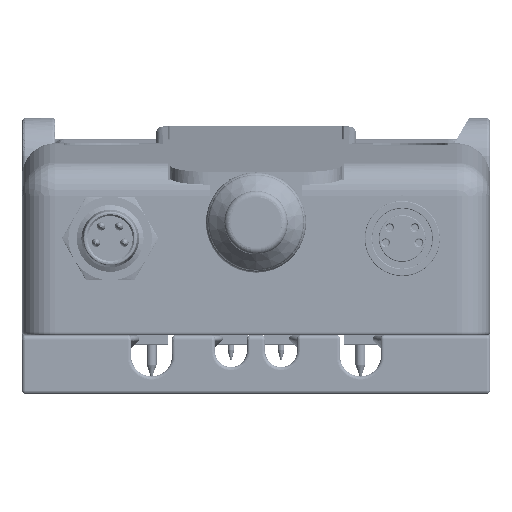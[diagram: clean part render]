
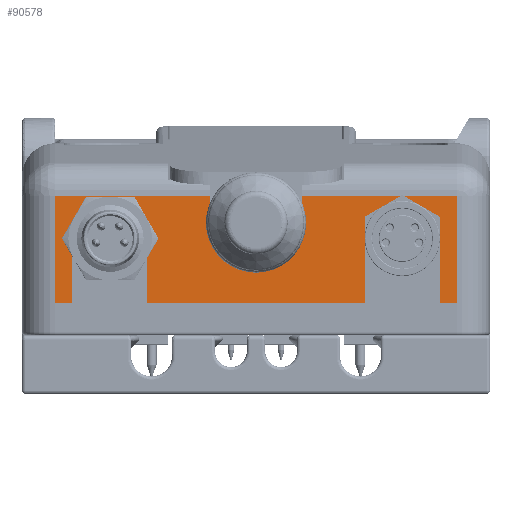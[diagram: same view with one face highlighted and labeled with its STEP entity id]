
A CAD part, left-side view. The second image highlights one B-rep face of the part: STEP entity #90578.
In plain terms, the highlighted planar face has unit normal (-1, 0, 0).
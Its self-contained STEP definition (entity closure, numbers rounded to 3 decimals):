
#6927=PLANE('',#97430);
#10107=CIRCLE('',#97431,4.);
#10108=CIRCLE('',#97432,4.);
#10109=CIRCLE('',#97433,5.);
#14538=FACE_OUTER_BOUND('',#19946,.T.);
#19946=EDGE_LOOP('',(#78611,#78612,#78613,#78614,#78615,#78616,#78617,#78618,
#78619,#78620,#78621,#78622,#78623,#78624,#78625,#78626,#78627,#78628,#78629,
#78630,#78631,#78632));
#28754=LINE('',#168784,#37090);
#28793=LINE('',#168878,#37129);
#28799=LINE('',#168891,#37135);
#28800=LINE('',#168893,#37136);
#28801=LINE('',#168895,#37137);
#28802=LINE('',#168897,#37138);
#28803=LINE('',#168899,#37139);
#28804=LINE('',#168902,#37140);
#28805=LINE('',#168904,#37141);
#28806=LINE('',#168906,#37142);
#28807=LINE('',#168908,#37143);
#28808=LINE('',#168912,#37144);
#28809=LINE('',#168914,#37145);
#28810=LINE('',#168916,#37146);
#28811=LINE('',#168918,#37147);
#28812=LINE('',#168920,#37148);
#28813=LINE('',#168921,#37149);
#28814=LINE('',#168925,#37150);
#28815=LINE('',#168926,#37151);
#37090=VECTOR('',#116601,0.5);
#37129=VECTOR('',#116664,0.5);
#37135=VECTOR('',#116672,18.5);
#37136=VECTOR('',#116673,12.834);
#37137=VECTOR('',#116674,2.);
#37138=VECTOR('',#116675,7.52);
#37139=VECTOR('',#116676,0.5);
#37140=VECTOR('',#116679,7.52);
#37141=VECTOR('',#116680,26.);
#37142=VECTOR('',#116681,7.52);
#37143=VECTOR('',#116682,0.5);
#37144=VECTOR('',#116685,0.5);
#37145=VECTOR('',#116686,7.52);
#37146=VECTOR('',#116687,2.);
#37147=VECTOR('',#116688,12.834);
#37148=VECTOR('',#116689,18.5);
#37149=VECTOR('',#116690,3.234);
#37150=VECTOR('',#116693,0.5);
#37151=VECTOR('',#116694,3.234);
#45133=VERTEX_POINT('',#168780);
#45135=VERTEX_POINT('',#168783);
#45177=VERTEX_POINT('',#168876);
#45178=VERTEX_POINT('',#168877);
#45183=VERTEX_POINT('',#168889);
#45184=VERTEX_POINT('',#168890);
#45185=VERTEX_POINT('',#168892);
#45186=VERTEX_POINT('',#168894);
#45187=VERTEX_POINT('',#168896);
#45188=VERTEX_POINT('',#168898);
#45189=VERTEX_POINT('',#168901);
#45190=VERTEX_POINT('',#168903);
#45191=VERTEX_POINT('',#168905);
#45192=VERTEX_POINT('',#168907);
#45193=VERTEX_POINT('',#168909);
#45194=VERTEX_POINT('',#168911);
#45195=VERTEX_POINT('',#168913);
#45196=VERTEX_POINT('',#168915);
#45197=VERTEX_POINT('',#168917);
#45198=VERTEX_POINT('',#168919);
#45199=VERTEX_POINT('',#168922);
#45200=VERTEX_POINT('',#168924);
#56599=EDGE_CURVE('',#45133,#45135,#28754,.F.);
#56645=EDGE_CURVE('',#45177,#45178,#28793,.T.);
#56651=EDGE_CURVE('',#45183,#45184,#28799,.F.);
#56652=EDGE_CURVE('',#45184,#45185,#28800,.F.);
#56653=EDGE_CURVE('',#45186,#45185,#28801,.T.);
#56654=EDGE_CURVE('',#45186,#45187,#28802,.T.);
#56655=EDGE_CURVE('',#45187,#45188,#28803,.T.);
#56656=EDGE_CURVE('',#45188,#45177,#10107,.T.);
#56657=EDGE_CURVE('',#45178,#45189,#28804,.T.);
#56658=EDGE_CURVE('',#45190,#45189,#28805,.T.);
#56659=EDGE_CURVE('',#45190,#45191,#28806,.T.);
#56660=EDGE_CURVE('',#45191,#45192,#28807,.T.);
#56661=EDGE_CURVE('',#45193,#45192,#10108,.T.);
#56662=EDGE_CURVE('',#45193,#45194,#28808,.T.);
#56663=EDGE_CURVE('',#45194,#45195,#28809,.T.);
#56664=EDGE_CURVE('',#45196,#45195,#28810,.T.);
#56665=EDGE_CURVE('',#45196,#45197,#28811,.F.);
#56666=EDGE_CURVE('',#45197,#45198,#28812,.F.);
#56667=EDGE_CURVE('',#45135,#45198,#28813,.T.);
#56668=EDGE_CURVE('',#45133,#45199,#10109,.T.);
#56669=EDGE_CURVE('',#45200,#45199,#28814,.F.);
#56670=EDGE_CURVE('',#45183,#45200,#28815,.T.);
#78611=ORIENTED_EDGE('',*,*,#56651,.T.);
#78612=ORIENTED_EDGE('',*,*,#56652,.T.);
#78613=ORIENTED_EDGE('',*,*,#56653,.F.);
#78614=ORIENTED_EDGE('',*,*,#56654,.T.);
#78615=ORIENTED_EDGE('',*,*,#56655,.T.);
#78616=ORIENTED_EDGE('',*,*,#56656,.T.);
#78617=ORIENTED_EDGE('',*,*,#56645,.T.);
#78618=ORIENTED_EDGE('',*,*,#56657,.T.);
#78619=ORIENTED_EDGE('',*,*,#56658,.F.);
#78620=ORIENTED_EDGE('',*,*,#56659,.T.);
#78621=ORIENTED_EDGE('',*,*,#56660,.T.);
#78622=ORIENTED_EDGE('',*,*,#56661,.F.);
#78623=ORIENTED_EDGE('',*,*,#56662,.T.);
#78624=ORIENTED_EDGE('',*,*,#56663,.T.);
#78625=ORIENTED_EDGE('',*,*,#56664,.F.);
#78626=ORIENTED_EDGE('',*,*,#56665,.T.);
#78627=ORIENTED_EDGE('',*,*,#56666,.T.);
#78628=ORIENTED_EDGE('',*,*,#56667,.F.);
#78629=ORIENTED_EDGE('',*,*,#56599,.F.);
#78630=ORIENTED_EDGE('',*,*,#56668,.T.);
#78631=ORIENTED_EDGE('',*,*,#56669,.F.);
#78632=ORIENTED_EDGE('',*,*,#56670,.F.);
#90578=ADVANCED_FACE('',(#14538),#6927,.F.);
#97430=AXIS2_PLACEMENT_3D('',#168888,#116670,#116671);
#97431=AXIS2_PLACEMENT_3D('',#168900,#116677,#116678);
#97432=AXIS2_PLACEMENT_3D('',#168910,#116683,#116684);
#97433=AXIS2_PLACEMENT_3D('',#168923,#116691,#116692);
#116601=DIRECTION('',(0.,1.,0.));
#116664=DIRECTION('',(0.,-1.,0.));
#116670=DIRECTION('center_axis',(1.,0.,0.));
#116671=DIRECTION('ref_axis',(0.,1.,0.));
#116672=DIRECTION('',(0.,-1.,0.));
#116673=DIRECTION('',(0.,0.,1.));
#116674=DIRECTION('',(0.,1.,0.));
#116675=DIRECTION('',(0.,0.,1.));
#116676=DIRECTION('',(0.,-1.,0.));
#116677=DIRECTION('center_axis',(1.,0.,0.));
#116678=DIRECTION('ref_axis',(0.,1.,0.));
#116679=DIRECTION('',(0.,0.,-1.));
#116680=DIRECTION('',(0.,1.,0.));
#116681=DIRECTION('',(0.,0.,1.));
#116682=DIRECTION('',(0.,-1.,0.));
#116683=DIRECTION('center_axis',(-1.,0.,0.));
#116684=DIRECTION('ref_axis',(0.,-1.,0.));
#116685=DIRECTION('',(0.,-1.,0.));
#116686=DIRECTION('',(0.,0.,-1.));
#116687=DIRECTION('',(0.,1.,0.));
#116688=DIRECTION('',(0.,0.,-1.));
#116689=DIRECTION('',(0.,-1.,0.));
#116690=DIRECTION('',(0.,0.,1.));
#116691=DIRECTION('center_axis',(1.,0.,0.));
#116692=DIRECTION('ref_axis',(0.,1.,0.));
#116693=DIRECTION('',(0.,1.,0.));
#116694=DIRECTION('',(0.,0.,-1.));
#168780=CARTESIAN_POINT('',(-92.5,-5.,9.6));
#168783=CARTESIAN_POINT('',(-92.5,-5.5,9.6));
#168784=CARTESIAN_POINT('',(-92.5,-5.5,9.6));
#168876=CARTESIAN_POINT('',(-92.5,13.5,7.52));
#168877=CARTESIAN_POINT('',(-92.5,13.,7.52));
#168878=CARTESIAN_POINT('',(-92.5,13.5,7.52));
#168888=CARTESIAN_POINT('Origin',(-92.5,28.,1.6));
#168889=CARTESIAN_POINT('',(-92.5,5.5,12.834));
#168890=CARTESIAN_POINT('',(-92.5,24.,12.834));
#168891=CARTESIAN_POINT('',(-92.5,24.,12.834));
#168892=CARTESIAN_POINT('',(-92.5,24.,0.));
#168893=CARTESIAN_POINT('',(-92.5,24.,0.));
#168894=CARTESIAN_POINT('',(-92.5,22.,0.));
#168895=CARTESIAN_POINT('',(-92.5,22.,0.));
#168896=CARTESIAN_POINT('',(-92.5,22.,7.52));
#168897=CARTESIAN_POINT('',(-92.5,22.,0.));
#168898=CARTESIAN_POINT('',(-92.5,21.5,7.52));
#168899=CARTESIAN_POINT('',(-92.5,22.,7.52));
#168900=CARTESIAN_POINT('Origin',(-92.5,17.5,7.52));
#168901=CARTESIAN_POINT('',(-92.5,13.,0.));
#168902=CARTESIAN_POINT('',(-92.5,13.,7.52));
#168903=CARTESIAN_POINT('',(-92.5,-13.,0.));
#168904=CARTESIAN_POINT('',(-92.5,-13.,0.));
#168905=CARTESIAN_POINT('',(-92.5,-13.,7.52));
#168906=CARTESIAN_POINT('',(-92.5,-13.,0.));
#168907=CARTESIAN_POINT('',(-92.5,-13.5,7.52));
#168908=CARTESIAN_POINT('',(-92.5,-13.,7.52));
#168909=CARTESIAN_POINT('',(-92.5,-21.5,7.52));
#168910=CARTESIAN_POINT('Origin',(-92.5,-17.5,7.52));
#168911=CARTESIAN_POINT('',(-92.5,-22.,7.52));
#168912=CARTESIAN_POINT('',(-92.5,-21.5,7.52));
#168913=CARTESIAN_POINT('',(-92.5,-22.,0.));
#168914=CARTESIAN_POINT('',(-92.5,-22.,7.52));
#168915=CARTESIAN_POINT('',(-92.5,-24.,0.));
#168916=CARTESIAN_POINT('',(-92.5,-24.,0.));
#168917=CARTESIAN_POINT('',(-92.5,-24.,12.834));
#168918=CARTESIAN_POINT('',(-92.5,-24.,12.834));
#168919=CARTESIAN_POINT('',(-92.5,-5.5,12.834));
#168920=CARTESIAN_POINT('',(-92.5,-5.5,12.834));
#168921=CARTESIAN_POINT('',(-92.5,-5.5,9.6));
#168922=CARTESIAN_POINT('',(-92.5,5.,9.6));
#168923=CARTESIAN_POINT('Origin',(-92.5,0.,9.6));
#168924=CARTESIAN_POINT('',(-92.5,5.5,9.6));
#168925=CARTESIAN_POINT('',(-92.5,5.,9.6));
#168926=CARTESIAN_POINT('',(-92.5,5.5,12.834));
